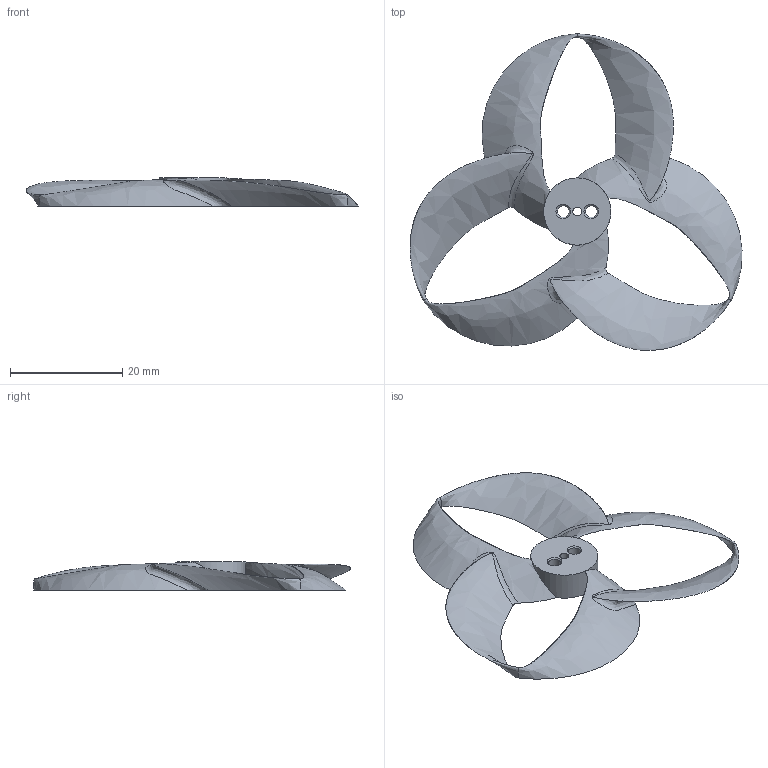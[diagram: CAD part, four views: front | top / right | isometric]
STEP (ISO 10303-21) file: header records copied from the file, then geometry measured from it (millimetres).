
FILE_DESCRIPTION(/* description */ (''),/* implementation_level */ '2;1');
FILE_NAME(/* name */ 'V3 Tri-Loop 2-2.5-inch.step',/* time_stamp */ '2023-02-14T12:15:20+07:00',/* author */ (''),/* organization */ (''),/* preprocessor_version */ 'ST-DEVELOPER v19.2',/* originating_system */ 'Autodesk Translation Framework v11.17.0.187',/* authorisation */ '');
FILE_SCHEMA (('AUTOMOTIVE_DESIGN { 1 0 10303 214 3 1 1 }'));
Length unit declared in the file: millimetre
Products named in the file (1): V3 Tri-Loop 2"
Bounding box: 59.26 x 56.54 x 5 mm (x, y, z)
Volume: 1544.7 mm3; surface area: 3959.3 mm2
Topology: 1 solids, 1 shells, 24 faces, 78 edges, 46 vertices
Faces by surface type: bspline 9, plane 8, cylinder 4, cone 3
Full cylindrical faces by diameter (mm): 1.6 x1, 2.1 x2, 12 x1
Entity records: 2875 total; most frequent: CARTESIAN_POINT 2248, ORIENTED_EDGE 148, DIRECTION 100, EDGE_CURVE 74, VERTEX_POINT 46, AXIS2_PLACEMENT_3D 45, EDGE_LOOP 30, CIRCLE 29
